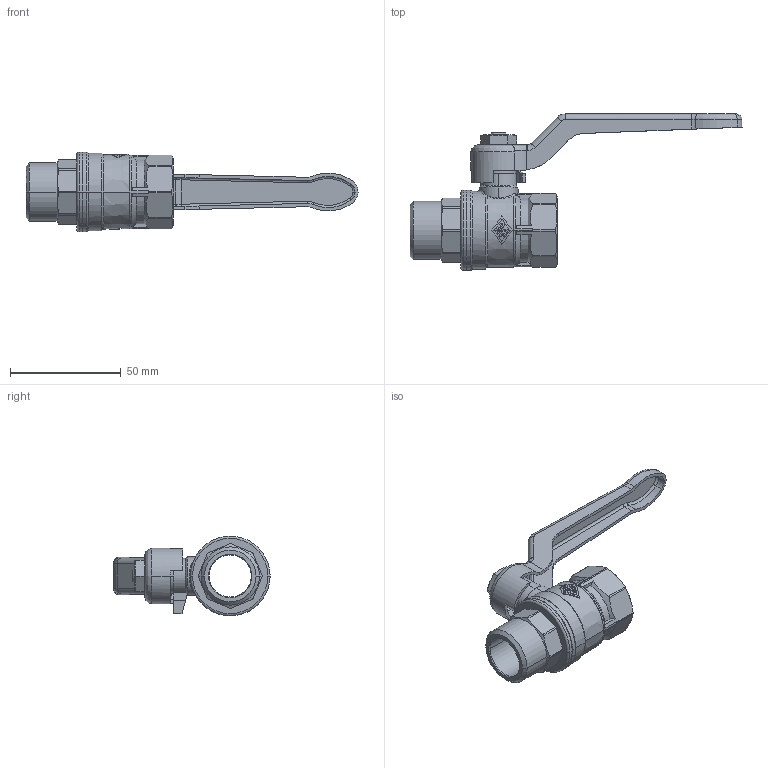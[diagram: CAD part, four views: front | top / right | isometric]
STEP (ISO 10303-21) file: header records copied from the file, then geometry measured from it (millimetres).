
FILE_DESCRIPTION(('OneSpaceDesigner STEP Export'),'2;1');
FILE_NAME('1501050000.stp','2007-09-24T10:13:23',(''),(''),'OneSpace Designer STEP processor for AP214 (Solid Model)','OneSpace Modeling 15.00B 25-Jun-2007 (C) CoCreate Software GmbH','');
FILE_SCHEMA(('AUTOMOTIVE_DESIGN { 1 0 10303 214 1 1 1 1 }'));
Length unit declared in the file: millimetre
Products named in the file (2): 1501050000
Assembly tree (1 placements, depth 2):
  1501050000
    1501050000
Bounding box: 149.83 x 70.5 x 36 mm (x, y, z)
Volume: 39831.2 mm3; surface area: 22393.2 mm2
Topology: 1 solids, 3 shells, 527 faces, 1394 edges, 891 vertices
Faces by surface type: plane 220, cylinder 172, cone 85, bspline 25, torus 16, extrusion 5, sphere 4
Entity records: 27511 total; most frequent: CARTESIAN_POINT 14664, ORIENTED_EDGE 2784, DIRECTION 1908, EDGE_CURVE 1392, VERTEX_POINT 891, VECTOR 678, LINE 673, AXIS2_PLACEMENT_3D 615
